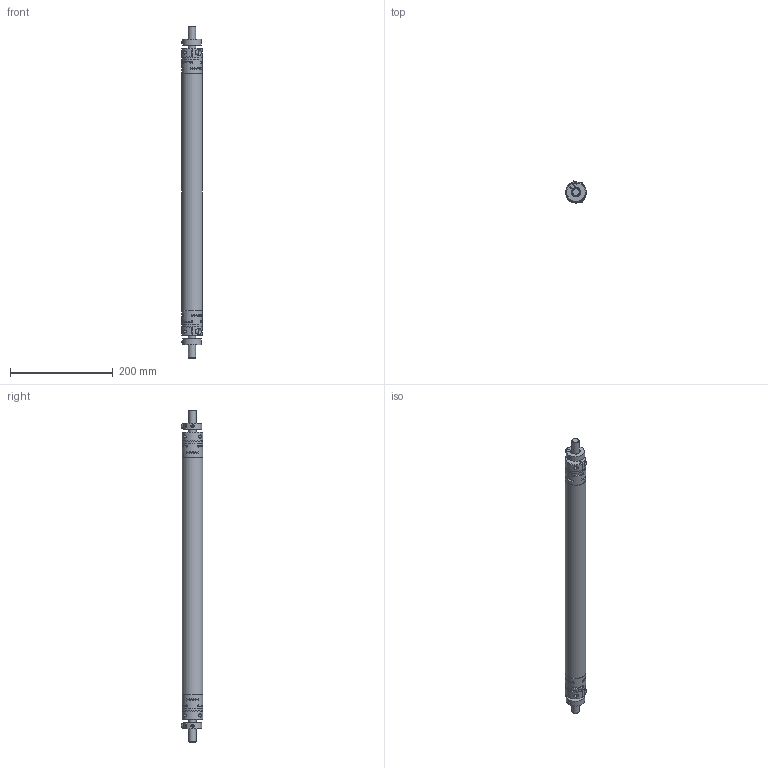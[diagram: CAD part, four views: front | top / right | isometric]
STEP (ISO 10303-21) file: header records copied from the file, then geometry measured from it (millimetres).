
FILE_DESCRIPTION(/* description */ ('Connecting shaft HLR080 - double axis distance = 650mm'),/* implementation_level */ '2;1');
FILE_NAME(/* name */ 'D:\InventorWorkspace2017\CAD\Projekte_EDEM\HLR\Zubehörteile\0242910-0650.stp',/* time_stamp */ '2019-02-13T11:23:45+01:00',/* author */ ('544672'),/* organization */ (''),/* preprocessor_version */ 'ST-DEVELOPER v16.5',/* originating_system */ 'Autodesk Inventor 2017',/* authorisation */ '');
FILE_SCHEMA (('AUTOMOTIVE_DESIGN { 1 0 10303 214 3 1 1 }'));
Length unit declared in the file: millimetre
Products named in the file (8): 0242.910-0650; 0241910-XXXX; ROTEX GS19 ZR3_Rohr_1; ROTEX GS19 ZR3_Klemmnabe D14; 0242007-02; 0241914; 0241012; 130-302345
Assembly tree (11 placements, depth 3):
  0242.910-0650
    0241910-XXXX
      ROTEX GS19 ZR3_Klemmnabe D14  x2
      ROTEX GS19 ZR3_Rohr_1
    0242007-02
      0241914  x2
      0241012  x2
      130-302345  x2
Bounding box: 40 x 41.78 x 645 mm (x, y, z)
Volume: 286690.7 mm3; surface area: 158956.5 mm2
Topology: 9 solids, 9 shells, 424 faces, 1188 edges, 790 vertices
Faces by surface type: cylinder 176, plane 154, cone 90, torus 4
Full cylindrical faces by diameter (mm): 3 x12, 4.917 x2, 6 x6, 6.4 x2, 6.6 x8, 10 x6, 14 x4, 18 x4, 22 x2, 34 x1, 39.4 x2, 40 x3
Entity records: 7305 total; most frequent: CARTESIAN_POINT 1526, DIRECTION 1269, ORIENTED_EDGE 1082, EDGE_CURVE 541, AXIS2_PLACEMENT_3D 540, VERTEX_POINT 383, EDGE_LOOP 294, CIRCLE 291
